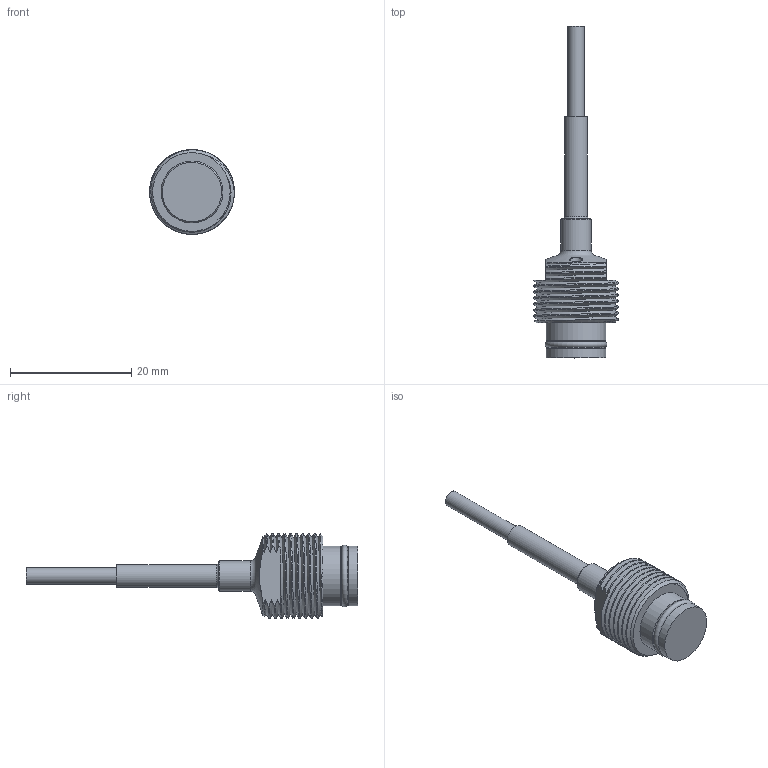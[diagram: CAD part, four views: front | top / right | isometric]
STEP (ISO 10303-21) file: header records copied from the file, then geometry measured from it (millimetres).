
FILE_DESCRIPTION( ( 'STEP AP214' ), '1' );
FILE_NAME( 'N:/Engineering/CAD_Solid/Wirbelstrom/Wirbelstromsensoren/T2_druckdicht/T2-M14-KA-PR.stp', '2014-02-27T09:42:20', ( ' ' ), ( ' ' ), 'XStep 1.0', ' ', ' ' );
FILE_SCHEMA( ( 'CONFIG_CONTROL_DESIGN) ( )' ) );
Length unit declared in the file: metre
Products named in the file (5): 1; 2; 3; 4; 5
Bounding box: 14 x 54.8 x 14 mm (x, y, z)
Volume: 22.6 mm3; surface area: 2032.3 mm2
Topology: 1 solids, 53 shells, 54 faces, 240 edges, 221 vertices
Faces by surface type: bspline 15, cylinder 14, plane 13, cone 8, torus 4
Full cylindrical faces by diameter (mm): 2 x2, 2.7 x1, 3.7 x1, 5 x1, 8.4 x1, 9.8 x2
Entity records: 41195 total; most frequent: CARTESIAN_POINT 39648, DIRECTION 216, ORIENTED_EDGE 212, EDGE_CURVE 210, VERTEX_POINT 210, B_SPLINE_CURVE_WITH_KNOTS 98, AXIS2_PLACEMENT_3D 96, EDGE_LOOP 79
